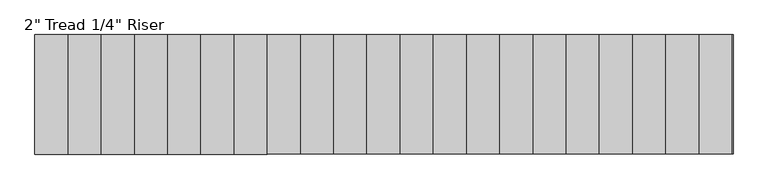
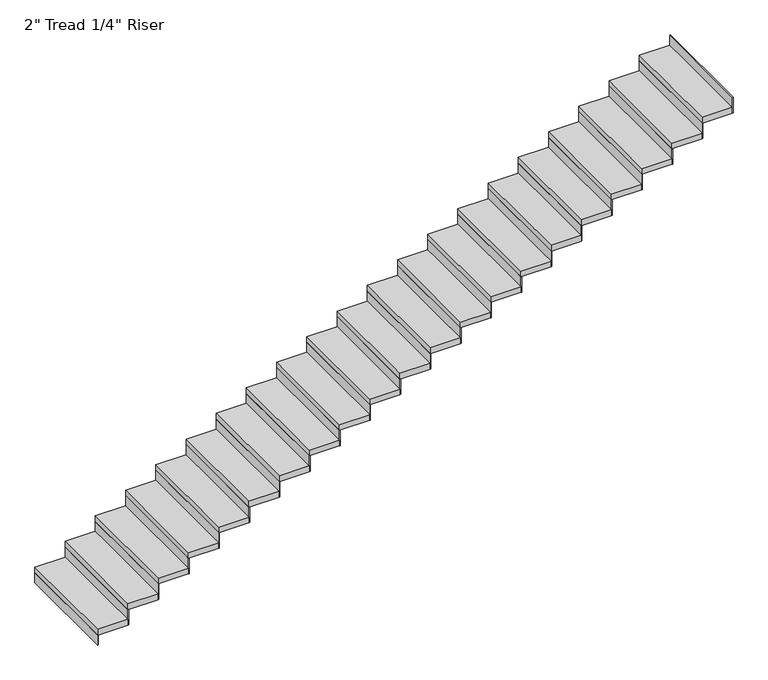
"""IFC4 building model written with IfcOpenShell, lengths in millimetres: stair flight geometry."""

import ifcopenshell
import ifcopenshell.guid

model = None  # the IFC model being written
_history = None  # IfcOwnerHistory: only IFC2X3 demands one
_inside = {}  # id of a spatial element -> (the spatial element, [elements in it])
_under = {}  # id of a project, library or spatial element -> (it, [spatial elements below it])
_declared = {}  # id of a project -> (the project, [libraries it declares])
_typed = {}  # id of a type object -> (the type object, [elements of that type])
_made_of = {}  # id of a material, layer set ... -> (it, [elements and type objects made of it])


def new_model(schema):
    """Start an empty IFC model of exactly this schema.

    Asked for "IFC4X3", IfcOpenShell would pick the latest addendum, in which some entities
    have other attributes; the version numbers below select the first issue.
    IFC2X3 requires an IfcOwnerHistory on every rooted entity: one is made here for all.
    """
    global model, _history
    if schema == "IFC4X3":
        model = ifcopenshell.file(schema_version=(4, 3, 0, 0))
    else:
        model = ifcopenshell.file(schema=schema)
    _inside.clear()
    _under.clear()
    _declared.clear()
    _typed.clear()
    _made_of.clear()
    _history = None
    if model.schema == "IFC2X3":
        org = make("IfcOrganization", Name="unknown")
        user = make(
            "IfcPersonAndOrganization",
            ThePerson=make("IfcPerson", FamilyName="unknown"),
            TheOrganization=org,
        )
        app = make(
            "IfcApplication",
            ApplicationDeveloper=org,
            Version="unknown",
            ApplicationFullName="unknown",
            ApplicationIdentifier="unknown",
        )
        _history = make(
            "IfcOwnerHistory",
            OwningUser=user,
            OwningApplication=app,
            ChangeAction="ADDED",
            CreationDate=0,
        )
    return model


def make(cls, **values):
    """One entity of the class cls with the attributes given. An attribute that is None is left unset."""
    return model.create_entity(
        cls, **{name: value for name, value in values.items() if value is not None}
    )


def rooted(cls, **values):
    """An entity with a GlobalId (a new one), such as an element, a storey or a relation."""
    return make(cls, GlobalId=ifcopenshell.guid.new(), OwnerHistory=_history, **values)


def si_unit(unit_type, name, prefix=None):
    """IfcSIUnit, for example si_unit("LENGTHUNIT", "METRE", prefix="MILLI")."""
    return make("IfcSIUnit", UnitType=unit_type, Prefix=prefix, Name=name)


def assignment(units):
    """IfcUnitAssignment: the units of a project."""
    return None if units is None else make("IfcUnitAssignment", Units=units)


def point(xyz):
    """IfcCartesianPoint."""
    return None if xyz is None else make("IfcCartesianPoint", Coordinates=xyz)


def direction(xyz):
    """IfcDirection."""
    return None if xyz is None else make("IfcDirection", DirectionRatios=xyz)


def frame(location, z_axis=None, x_axis=None):
    """IfcAxis2Placement3D, a coordinate frame: its origin and axes. An axis left out is left unset."""
    return make(
        "IfcAxis2Placement3D",
        Location=point(location),
        Axis=direction(z_axis),
        RefDirection=direction(x_axis),
    )


def origin():
    """The frame at (0, 0, 0) with its axes left unset."""
    return frame((0.0, 0.0, 0.0))


def origin_with_axes():
    """The frame at (0, 0, 0) with the z axis (0, 0, 1) and the x axis (1, 0, 0) written out."""
    return frame((0.0, 0.0, 0.0), z_axis=(0.0, 0.0, 1.0), x_axis=(1.0, 0.0, 0.0))


def place(relative_to, where):
    """IfcLocalPlacement: puts the frame where relative to a parent placement (None: the world)."""
    return make(
        "IfcLocalPlacement", PlacementRelTo=relative_to, RelativePlacement=where
    )


def context(
    kind, dimensions, precision=None, world=None, true_north=None, identifier=None
):
    """IfcGeometricRepresentationContext, for example the 3D "Model" context."""
    return make(
        "IfcGeometricRepresentationContext",
        ContextIdentifier=identifier,
        ContextType=kind,
        CoordinateSpaceDimension=dimensions,
        Precision=precision,
        WorldCoordinateSystem=world,
        TrueNorth=true_north,
    )


def project(units=None, contexts=None):
    """IfcProject with its units and contexts."""
    return rooted(
        "IfcProject",
        Name="project",
        RepresentationContexts=contexts,
        UnitsInContext=assignment(units),
    )


def spatial(cls, under=None, at=None, **own):
    """A site, building, storey or space (cls), placed at a placement, below another one or the project."""
    s = rooted(cls, ObjectPlacement=at, **own)
    if under is not None:
        _under.setdefault(under.id(), (under, []))[1].append(s)
    return s


def polyline(points):
    """IfcPolyline through the points."""
    return make("IfcPolyline", Points=[point(p) for p in points])


def outline(outer, holes=None, kind="AREA"):
    """IfcArbitraryClosedProfileDef: a profile drawn as a closed curve; with holes, ...WithVoids."""
    if holes is None:
        return make("IfcArbitraryClosedProfileDef", ProfileType=kind, OuterCurve=outer)
    return make(
        "IfcArbitraryProfileDefWithVoids",
        ProfileType=kind,
        OuterCurve=outer,
        InnerCurves=holes,
    )


def extrude(swept, where, along, depth):
    """IfcExtrudedAreaSolid: the profile swept, set in the frame where, extruded along a direction by depth."""
    return make(
        "IfcExtrudedAreaSolid",
        SweptArea=swept,
        Position=where,
        ExtrudedDirection=direction(along),
        Depth=depth,
    )


def shape(context_of_items, identifier, shape_type, items):
    """IfcShapeRepresentation: the items that make up one representation, for example the "Body"."""
    return make(
        "IfcShapeRepresentation",
        ContextOfItems=context_of_items,
        RepresentationIdentifier=identifier,
        RepresentationType=shape_type,
        Items=items,
    )


def source(mapping_origin, context_of_items, identifier, shape_type, items):
    """IfcRepresentationMap: a shape defined once, which mapped items show again and again."""
    return make(
        "IfcRepresentationMap",
        MappingOrigin=mapping_origin,
        MappedRepresentation=shape(context_of_items, identifier, shape_type, items),
    )


def transform(
    local_origin,
    x_axis=None,
    y_axis=None,
    z_axis=None,
    scale=None,
    scale2=None,
    scale3=None,
    uniform=True,
):
    """IfcCartesianTransformationOperator3D, or its non-uniform kind. x_axis, y_axis, z_axis: its Axis1, 2, 3."""
    if uniform:
        return make(
            "IfcCartesianTransformationOperator3D",
            Axis1=direction(x_axis),
            Axis2=direction(y_axis),
            LocalOrigin=point(local_origin),
            Scale=scale,
            Axis3=direction(z_axis),
        )
    return make(
        "IfcCartesianTransformationOperator3DnonUniform",
        Axis1=direction(x_axis),
        Axis2=direction(y_axis),
        LocalOrigin=point(local_origin),
        Scale=scale,
        Axis3=direction(z_axis),
        Scale2=scale2,
        Scale3=scale3,
    )


def mapped(mapping_source, mapping_target):
    """IfcMappedItem: shows the shape of a source again, moved by a transform."""
    return make(
        "IfcMappedItem", MappingSource=mapping_source, MappingTarget=mapping_target
    )


def made_of(thing, what):
    """Note that an element or type object is made of a material, layer set ...; save() writes the relation."""
    if what is not None:
        _made_of.setdefault(what.id(), (what, []))[1].append(thing)
    return thing


def element(
    cls,
    number,
    at=None,
    inside=None,
    cuts=None,
    type_object=None,
    material=None,
    context=None,
    identifier="Body",
    shape_type=None,
    held_by="IfcProductDefinitionShape",
    body=None,
    shapes=None,
    **own,
):
    """One element of the class cls, such as IfcWall. Its Tag is "e" and its number.

    at: its placement. inside: the storey or other place that contains it. cuts: it is an
    opening in that element (IfcRelVoidsElement). A single representation is given by context,
    identifier, shape_type and body (its items); several are given by shapes. held_by: the class
    of the entity that holds the representations. save() writes the other relations.
    """
    e = rooted(cls, Tag="e%d" % number, ObjectPlacement=at, **own)
    if body is not None:
        shapes = [shape(context, identifier, shape_type, body)]
    if shapes is not None:
        e.Representation = make(held_by, Representations=shapes)
    if inside is not None:
        _inside.setdefault(inside.id(), (inside, []))[1].append(e)
    if cuts is not None:
        rooted(
            "IfcRelVoidsElement", RelatingBuildingElement=cuts, RelatedOpeningElement=e
        )
    if type_object is not None:
        _typed.setdefault(type_object.id(), (type_object, []))[1].append(e)
    return made_of(e, material)


def aggregate(whole, parts):
    """IfcRelAggregates: a whole, such as a stair, and the parts it consists of."""
    return rooted("IfcRelAggregates", RelatingObject=whole, RelatedObjects=parts)


def save(model, path):
    """Write the relations noted so far, then the file.

    IfcRelAggregates (storeys below a building ...), IfcRelContainedInSpatialStructure (elements
    in a storey), IfcRelDefinesByType, IfcRelAssociatesMaterial and IfcRelDeclares: one each for
    every whole, place, type object, material and project.
    """
    for whole, parts in _under.values():
        aggregate(whole, parts)
    for where, things in _inside.values():
        rooted(
            "IfcRelContainedInSpatialStructure",
            RelatedElements=things,
            RelatingStructure=where,
        )
    for kind, things in _typed.values():
        rooted("IfcRelDefinesByType", RelatedObjects=things, RelatingType=kind)
    for what, things in _made_of.values():
        rooted("IfcRelAssociatesMaterial", RelatedObjects=things, RelatingMaterial=what)
    for by, libraries in _declared.values():
        rooted("IfcRelDeclares", RelatingContext=by, RelatedDefinitions=libraries)
    model.write(path)


def stair_flight_d066f2ad(model_context):
    return source(origin(), model_context, "Body", "SweptSolid", [
        extrude(outline(polyline([(60758.6286682, -10136.835031), (60752.2786682, -10136.835031), (60752.2786682, -9222.435031), (60758.6286682, -9222.435031), (60758.6286682, -10136.835031)])), origin_with_axes(), (0.0, 0.0, 1.0), 87.7454545),
        extrude(outline(polyline([(61006.2786682, -9222.435031), (61006.2786682, -10136.835031), (60752.2786682, -10136.835031), (60752.2786682, -9222.435031), (61006.2786682, -9222.435031)])), frame((0.0, 0.0, 87.7454545), z_axis=(0.0, 0.0, 1.0), x_axis=(1.0, 0.0, 0.0)), (0.0, 0.0, 1.0), 50.8),
        extrude(outline(polyline([(61012.6286682, -10136.835031), (61006.2786682, -10136.835031), (61006.2786682, -9222.435031), (61012.6286682, -9222.435031), (61012.6286682, -10136.835031)])), frame((0.0, 0.0, 87.7454545), z_axis=(0.0, 0.0, 1.0), x_axis=(1.0, 0.0, 0.0)), (0.0, 0.0, 1.0), 138.5454545),
        extrude(outline(polyline([(61260.2786682, -9222.435031), (61260.2786682, -10136.835031), (61006.2786682, -10136.835031), (61006.2786682, -9222.435031), (61260.2786682, -9222.435031)])), frame((0.0, 0.0, 226.2909091), z_axis=(0.0, 0.0, 1.0), x_axis=(1.0, 0.0, 0.0)), (0.0, 0.0, 1.0), 50.8),
        extrude(outline(polyline([(61266.6286682, -10136.835031), (61260.2786682, -10136.835031), (61260.2786682, -9222.435031), (61266.6286682, -9222.435031), (61266.6286682, -10136.835031)])), frame((0.0, 0.0, 226.2909091), z_axis=(0.0, 0.0, 1.0), x_axis=(1.0, 0.0, 0.0)), (0.0, 0.0, 1.0), 138.5454545),
        extrude(outline(polyline([(61514.2786682, -9222.435031), (61514.2786682, -10136.835031), (61260.2786682, -10136.835031), (61260.2786682, -9222.435031), (61514.2786682, -9222.435031)])), frame((0.0, 0.0, 364.8363636), z_axis=(0.0, 0.0, 1.0), x_axis=(1.0, 0.0, 0.0)), (0.0, 0.0, 1.0), 50.8),
        extrude(outline(polyline([(61520.6286682, -10136.835031), (61514.2786682, -10136.835031), (61514.2786682, -9222.435031), (61520.6286682, -9222.435031), (61520.6286682, -10136.835031)])), frame((0.0, 0.0, 364.8363636), z_axis=(0.0, 0.0, 1.0), x_axis=(1.0, 0.0, 0.0)), (0.0, 0.0, 1.0), 138.5454545),
        extrude(outline(polyline([(61768.2786682, -9222.435031), (61768.2786682, -10136.835031), (61514.2786682, -10136.835031), (61514.2786682, -9222.435031), (61768.2786682, -9222.435031)])), frame((0.0, 0.0, 503.3818182), z_axis=(0.0, 0.0, 1.0), x_axis=(1.0, 0.0, 0.0)), (0.0, 0.0, 1.0), 50.8),
        extrude(outline(polyline([(61774.6286682, -10136.835031), (61768.2786682, -10136.835031), (61768.2786682, -9222.435031), (61774.6286682, -9222.435031), (61774.6286682, -10136.835031)])), frame((0.0, 0.0, 503.3818182), z_axis=(0.0, 0.0, 1.0), x_axis=(1.0, 0.0, 0.0)), (0.0, 0.0, 1.0), 138.5454545),
        extrude(outline(polyline([(62022.2786682, -9222.435031), (62022.2786682, -10136.835031), (61768.2786682, -10136.835031), (61768.2786682, -9222.435031), (62022.2786682, -9222.435031)])), frame((0.0, 0.0, 641.9272727), z_axis=(0.0, 0.0, 1.0), x_axis=(1.0, 0.0, 0.0)), (0.0, 0.0, 1.0), 50.8),
        extrude(outline(polyline([(62028.6286682, -10136.835031), (62022.2786682, -10136.835031), (62022.2786682, -9222.435031), (62028.6286682, -9222.435031), (62028.6286682, -10136.835031)])), frame((0.0, 0.0, 641.9272727), z_axis=(0.0, 0.0, 1.0), x_axis=(1.0, 0.0, 0.0)), (0.0, 0.0, 1.0), 138.5454545),
        extrude(outline(polyline([(62276.2786682, -9222.435031), (62276.2786682, -10136.835031), (62022.2786682, -10136.835031), (62022.2786682, -9222.435031), (62276.2786682, -9222.435031)])), frame((0.0, 0.0, 780.4727273), z_axis=(0.0, 0.0, 1.0), x_axis=(1.0, 0.0, 0.0)), (0.0, 0.0, 1.0), 50.8),
        extrude(outline(polyline([(62282.6286682, -10136.835031), (62276.2786682, -10136.835031), (62276.2786682, -9222.435031), (62282.6286682, -9222.435031), (62282.6286682, -10136.835031)])), frame((0.0, 0.0, 780.4727273), z_axis=(0.0, 0.0, 1.0), x_axis=(1.0, 0.0, 0.0)), (0.0, 0.0, 1.0), 138.5454545),
        extrude(outline(polyline([(62530.2786682, -9222.435031), (62530.2786682, -10136.835031), (62276.2786682, -10136.835031), (62276.2786682, -9222.435031), (62530.2786682, -9222.435031)])), frame((0.0, 0.0, 919.0181818), z_axis=(0.0, 0.0, 1.0), x_axis=(1.0, 0.0, 0.0)), (0.0, 0.0, 1.0), 50.8),
        extrude(outline(polyline([(62536.6286682, -10136.835031), (62530.2786682, -10136.835031), (62530.2786682, -9222.435031), (62536.6286682, -9222.435031), (62536.6286682, -10136.835031)])), frame((0.0, 0.0, 919.0181818), z_axis=(0.0, 0.0, 1.0), x_axis=(1.0, 0.0, 0.0)), (0.0, 0.0, 1.0), 138.5454545),
        extrude(outline(polyline([(62784.2786682, -9222.435031), (62784.2786682, -10136.835031), (62530.2786682, -10136.835031), (62530.2786682, -9222.435031), (62784.2786682, -9222.435031)])), frame((0.0, 0.0, 1057.5636364), z_axis=(0.0, 0.0, 1.0), x_axis=(1.0, 0.0, 0.0)), (0.0, 0.0, 1.0), 50.8),
        extrude(outline(polyline([(62790.6286682, -10136.835031), (62784.2786682, -10136.835031), (62784.2786682, -9222.435031), (62790.6286682, -9222.435031), (62790.6286682, -10136.835031)])), frame((0.0, 0.0, 1057.5636364), z_axis=(0.0, 0.0, 1.0), x_axis=(1.0, 0.0, 0.0)), (0.0, 0.0, 1.0), 138.5454545),
        extrude(outline(polyline([(63038.2786682, -9222.435031), (63038.2786682, -10136.835031), (62784.2786682, -10136.835031), (62784.2786682, -9222.435031), (63038.2786682, -9222.435031)])), frame((0.0, 0.0, 1196.1090909), z_axis=(0.0, 0.0, 1.0), x_axis=(1.0, 0.0, 0.0)), (0.0, 0.0, 1.0), 50.8),
        extrude(outline(polyline([(63044.6286682, -10136.835031), (63038.2786682, -10136.835031), (63038.2786682, -9222.435031), (63044.6286682, -9222.435031), (63044.6286682, -10136.835031)])), frame((0.0, 0.0, 1196.1090909), z_axis=(0.0, 0.0, 1.0), x_axis=(1.0, 0.0, 0.0)), (0.0, 0.0, 1.0), 138.5454545),
        extrude(outline(polyline([(63292.2786682, -9222.435031), (63292.2786682, -10136.835031), (63038.2786682, -10136.835031), (63038.2786682, -9222.435031), (63292.2786682, -9222.435031)])), frame((0.0, 0.0, 1334.6545455), z_axis=(0.0, 0.0, 1.0), x_axis=(1.0, 0.0, 0.0)), (0.0, 0.0, 1.0), 50.8),
        extrude(outline(polyline([(63298.6286682, -10136.835031), (63292.2786682, -10136.835031), (63292.2786682, -9222.435031), (63298.6286682, -9222.435031), (63298.6286682, -10136.835031)])), frame((0.0, 0.0, 1334.6545455), z_axis=(0.0, 0.0, 1.0), x_axis=(1.0, 0.0, 0.0)), (0.0, 0.0, 1.0), 138.5454545),
        extrude(outline(polyline([(63546.2786682, -9222.435031), (63546.2786682, -10136.835031), (63292.2786682, -10136.835031), (63292.2786682, -9222.435031), (63546.2786682, -9222.435031)])), frame((0.0, 0.0, 1473.2), z_axis=(0.0, 0.0, 1.0), x_axis=(1.0, 0.0, 0.0)), (0.0, 0.0, 1.0), 50.8),
        extrude(outline(polyline([(63552.6286682, -10136.835031), (63546.2786682, -10136.835031), (63546.2786682, -9222.435031), (63552.6286682, -9222.435031), (63552.6286682, -10136.835031)])), frame((0.0, 0.0, 1473.2), z_axis=(0.0, 0.0, 1.0), x_axis=(1.0, 0.0, 0.0)), (0.0, 0.0, 1.0), 138.5454545),
        extrude(outline(polyline([(63800.2786682, -9222.435031), (63800.2786682, -10136.835031), (63546.2786682, -10136.835031), (63546.2786682, -9222.435031), (63800.2786682, -9222.435031)])), frame((0.0, 0.0, 1611.7454545), z_axis=(0.0, 0.0, 1.0), x_axis=(1.0, 0.0, 0.0)), (0.0, 0.0, 1.0), 50.8),
        extrude(outline(polyline([(63806.6286682, -10136.835031), (63800.2786682, -10136.835031), (63800.2786682, -9222.435031), (63806.6286682, -9222.435031), (63806.6286682, -10136.835031)])), frame((0.0, 0.0, 1611.7454545), z_axis=(0.0, 0.0, 1.0), x_axis=(1.0, 0.0, 0.0)), (0.0, 0.0, 1.0), 138.5454545),
        extrude(outline(polyline([(64054.2786682, -9222.435031), (64054.2786682, -10136.835031), (63800.2786682, -10136.835031), (63800.2786682, -9222.435031), (64054.2786682, -9222.435031)])), frame((0.0, 0.0, 1750.2909091), z_axis=(0.0, 0.0, 1.0), x_axis=(1.0, 0.0, 0.0)), (0.0, 0.0, 1.0), 50.8),
        extrude(outline(polyline([(64060.6286682, -10136.835031), (64054.2786682, -10136.835031), (64054.2786682, -9222.435031), (64060.6286682, -9222.435031), (64060.6286682, -10136.835031)])), frame((0.0, 0.0, 1750.2909091), z_axis=(0.0, 0.0, 1.0), x_axis=(1.0, 0.0, 0.0)), (0.0, 0.0, 1.0), 138.5454545),
        extrude(outline(polyline([(64308.2786682, -9222.435031), (64308.2786682, -10136.835031), (64054.2786682, -10136.835031), (64054.2786682, -9222.435031), (64308.2786682, -9222.435031)])), frame((0.0, 0.0, 1888.8363636), z_axis=(0.0, 0.0, 1.0), x_axis=(1.0, 0.0, 0.0)), (0.0, 0.0, 1.0), 50.8),
        extrude(outline(polyline([(64314.6286682, -10136.835031), (64308.2786682, -10136.835031), (64308.2786682, -9222.435031), (64314.6286682, -9222.435031), (64314.6286682, -10136.835031)])), frame((0.0, 0.0, 1888.8363636), z_axis=(0.0, 0.0, 1.0), x_axis=(1.0, 0.0, 0.0)), (0.0, 0.0, 1.0), 138.5454545),
        extrude(outline(polyline([(64562.2786682, -9222.435031), (64562.2786682, -10136.835031), (64308.2786682, -10136.835031), (64308.2786682, -9222.435031), (64562.2786682, -9222.435031)])), frame((0.0, 0.0, 2027.3818182), z_axis=(0.0, 0.0, 1.0), x_axis=(1.0, 0.0, 0.0)), (0.0, 0.0, 1.0), 50.8),
        extrude(outline(polyline([(64568.6286682, -10136.835031), (64562.2786682, -10136.835031), (64562.2786682, -9222.435031), (64568.6286682, -9222.435031), (64568.6286682, -10136.835031)])), frame((0.0, 0.0, 2027.3818182), z_axis=(0.0, 0.0, 1.0), x_axis=(1.0, 0.0, 0.0)), (0.0, 0.0, 1.0), 138.5454545),
        extrude(outline(polyline([(64816.2786682, -9222.435031), (64816.2786682, -10136.835031), (64562.2786682, -10136.835031), (64562.2786682, -9222.435031), (64816.2786682, -9222.435031)])), frame((0.0, 0.0, 2165.9272727), z_axis=(0.0, 0.0, 1.0), x_axis=(1.0, 0.0, 0.0)), (0.0, 0.0, 1.0), 50.8),
        extrude(outline(polyline([(64822.6286682, -10136.835031), (64816.2786682, -10136.835031), (64816.2786682, -9222.435031), (64822.6286682, -9222.435031), (64822.6286682, -10136.835031)])), frame((0.0, 0.0, 2165.9272727), z_axis=(0.0, 0.0, 1.0), x_axis=(1.0, 0.0, 0.0)), (0.0, 0.0, 1.0), 138.5454545),
        extrude(outline(polyline([(65070.2786682, -9222.435031), (65070.2786682, -10136.835031), (64816.2786682, -10136.835031), (64816.2786682, -9222.435031), (65070.2786682, -9222.435031)])), frame((0.0, 0.0, 2304.4727273), z_axis=(0.0, 0.0, 1.0), x_axis=(1.0, 0.0, 0.0)), (0.0, 0.0, 1.0), 50.8),
        extrude(outline(polyline([(65076.6286682, -10136.835031), (65070.2786682, -10136.835031), (65070.2786682, -9222.435031), (65076.6286682, -9222.435031), (65076.6286682, -10136.835031)])), frame((0.0, 0.0, 2304.4727273), z_axis=(0.0, 0.0, 1.0), x_axis=(1.0, 0.0, 0.0)), (0.0, 0.0, 1.0), 138.5454545),
        extrude(outline(polyline([(65324.2786682, -9222.435031), (65324.2786682, -10136.835031), (65070.2786682, -10136.835031), (65070.2786682, -9222.435031), (65324.2786682, -9222.435031)])), frame((0.0, 0.0, 2443.0181818), z_axis=(0.0, 0.0, 1.0), x_axis=(1.0, 0.0, 0.0)), (0.0, 0.0, 1.0), 50.8),
        extrude(outline(polyline([(65330.6286682, -10136.835031), (65324.2786682, -10136.835031), (65324.2786682, -9222.435031), (65330.6286682, -9222.435031), (65330.6286682, -10136.835031)])), frame((0.0, 0.0, 2443.0181818), z_axis=(0.0, 0.0, 1.0), x_axis=(1.0, 0.0, 0.0)), (0.0, 0.0, 1.0), 138.5454545),
        extrude(outline(polyline([(65578.2786682, -9222.435031), (65578.2786682, -10136.835031), (65324.2786682, -10136.835031), (65324.2786682, -9222.435031), (65578.2786682, -9222.435031)])), frame((0.0, 0.0, 2581.5636364), z_axis=(0.0, 0.0, 1.0), x_axis=(1.0, 0.0, 0.0)), (0.0, 0.0, 1.0), 50.8),
        extrude(outline(polyline([(65584.6286682, -10136.835031), (65578.2786682, -10136.835031), (65578.2786682, -9222.435031), (65584.6286682, -9222.435031), (65584.6286682, -10136.835031)])), frame((0.0, 0.0, 2581.5636364), z_axis=(0.0, 0.0, 1.0), x_axis=(1.0, 0.0, 0.0)), (0.0, 0.0, 1.0), 138.5454545),
        extrude(outline(polyline([(65832.2786682, -9222.435031), (65832.2786682, -10136.835031), (65578.2786682, -10136.835031), (65578.2786682, -9222.435031), (65832.2786682, -9222.435031)])), frame((0.0, 0.0, 2720.1090909), z_axis=(0.0, 0.0, 1.0), x_axis=(1.0, 0.0, 0.0)), (0.0, 0.0, 1.0), 50.8),
        extrude(outline(polyline([(65838.6286682, -10136.835031), (65832.2786682, -10136.835031), (65832.2786682, -9222.435031), (65838.6286682, -9222.435031), (65838.6286682, -10136.835031)])), frame((0.0, 0.0, 2720.1090909), z_axis=(0.0, 0.0, 1.0), x_axis=(1.0, 0.0, 0.0)), (0.0, 0.0, 1.0), 138.5454545),
        extrude(outline(polyline([(66092.6286682, -10136.835031), (66086.2786682, -10136.835031), (66086.2786682, -9222.435031), (66092.6286682, -9222.435031), (66092.6286682, -10136.835031)])), frame((0.0, 0.0, 2858.6545455), z_axis=(0.0, 0.0, 1.0), x_axis=(1.0, 0.0, 0.0)), (0.0, 0.0, 1.0), 138.5454545),
        extrude(outline(polyline([(66086.2786682, -9222.435031), (66086.2786682, -10136.835031), (65832.2786682, -10136.835031), (65832.2786682, -9222.435031), (66086.2786682, -9222.435031)])), frame((0.0, 0.0, 2858.6545455), z_axis=(0.0, 0.0, 1.0), x_axis=(1.0, 0.0, 0.0)), (0.0, 0.0, 1.0), 50.8),
    ])


if __name__ == "__main__":
    model = new_model("IFC4")
    model_context = context("Model", 3, world=origin())
    ifc_project = project(units=[si_unit("LENGTHUNIT", "METRE", prefix="MILLI")], contexts=[model_context])
    site = spatial("IfcSite", under=ifc_project)
    building = spatial("IfcBuilding", under=site)
    placement = place(None, origin())
    stair_flight_shape = stair_flight_d066f2ad(model_context)
    element("IfcStairFlight", 1, ObjectType="2\" Tread 1/4\" Riser", at=placement, inside=building, context=model_context, shape_type="MappedRepresentation", body=[
        mapped(stair_flight_shape, transform((0.0, 0.0, 0.0), x_axis=(1.0, 0.0, 0.0), y_axis=(0.0, 1.0, 0.0), z_axis=(0.0, 0.0, 1.0))),
    ])
    save(model, "model.ifc")
